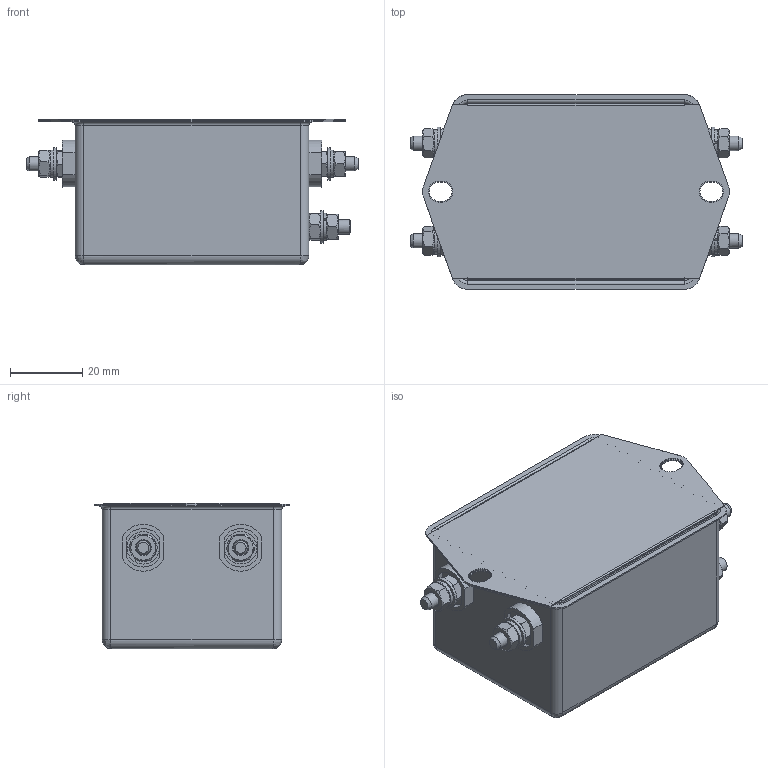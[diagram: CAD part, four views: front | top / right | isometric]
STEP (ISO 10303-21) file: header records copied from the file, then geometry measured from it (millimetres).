
FILE_DESCRIPTION((''),'2;1');
FILE_NAME('K:\Development\Product_FN\A Redesign FN2000_FN600\FN2030\3D FILE LIBRARY\FN2030-30-08\ASD OF FN2030-30-08_包覆面提取_6.stp','2012-11-07T10:59:39',('Fiona.chen'),(''),'Autodesk Inventor 2010','Autodesk Inventor 2010','');
FILE_SCHEMA(('AUTOMOTIVE_DESIGN { 1 0 10303 214 1 1 1 1 }'));
Length unit declared in the file: millimetre
Products named in the file (1): ASD OF FN2030-30-08_包覆面提取_6
Bounding box: 92 x 54 x 40.3 mm (x, y, z)
Volume: 133249.4 mm3; surface area: 20350 mm2
Topology: 1 solids, 8 shells, 459 faces, 1261 edges, 875 vertices
Faces by surface type: plane 275, cylinder 123, cone 45, bspline 12, torus 4
Full cylindrical faces by diameter (mm): 4 x11, 4.3 x5, 9 x5
Entity records: 14691 total; most frequent: CARTESIAN_POINT 3095, DIRECTION 2230, ORIENTED_EDGE 2168, EDGE_CURVE 1084, AXIS2_PLACEMENT_3D 778, VERTEX_POINT 724, VECTOR 674, LINE 674
